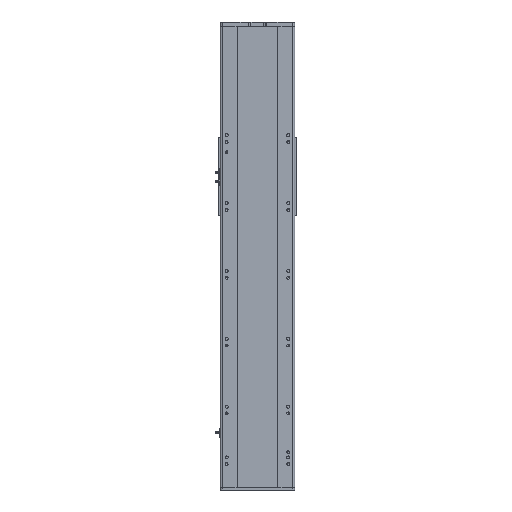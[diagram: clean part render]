
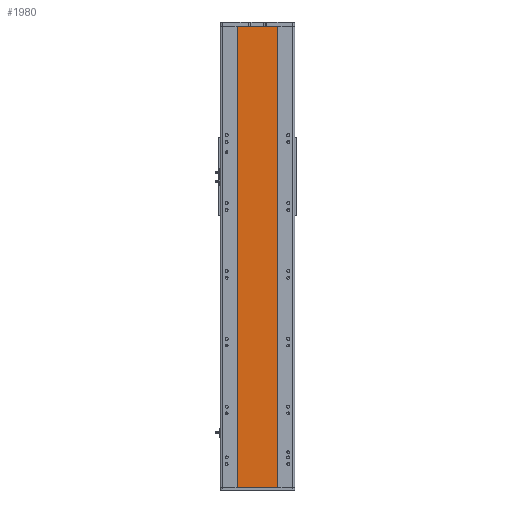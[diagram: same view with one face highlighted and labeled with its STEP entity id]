
A CAD part, front view. The second image highlights one B-rep face of the part: STEP entity #1980.
In plain terms, the highlighted planar face has unit normal (0, -1, 0).
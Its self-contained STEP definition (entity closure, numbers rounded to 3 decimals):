
#523 = EDGE_CURVE ( 'NONE', #20252, #26656, #4677, .T. ) ;
#553 = LINE ( 'NONE', #3970, #3300 ) ;
#897 = DIRECTION ( 'NONE',  ( 1., 0., 0. ) ) ;
#1447 = CARTESIAN_POINT ( 'NONE',  ( -59., 1., 680.5 ) ) ;
#1980 = ADVANCED_FACE ( 'NONE', ( #30156 ), #18916, .F. ) ;
#2332 = CARTESIAN_POINT ( 'NONE',  ( 59., 1., 680.5 ) ) ;
#2375 = ORIENTED_EDGE ( 'NONE', *, *, #523, .F. ) ;
#3265 = ORIENTED_EDGE ( 'NONE', *, *, #24276, .T. ) ;
#3300 = VECTOR ( 'NONE', #897, 1000. ) ;
#3380 = VERTEX_POINT ( 'NONE', #4880 ) ;
#3473 = EDGE_CURVE ( 'NONE', #26656, #3380, #5385, .T. ) ;
#3554 = VECTOR ( 'NONE', #37126, 1000. ) ;
#3970 = CARTESIAN_POINT ( 'NONE',  ( -59., 1., -680.5 ) ) ;
#4056 = CARTESIAN_POINT ( 'NONE',  ( -59., 1., 680.5 ) ) ;
#4677 = LINE ( 'NONE', #4056, #14238 ) ;
#4880 = CARTESIAN_POINT ( 'NONE',  ( 59., 1., -680.5 ) ) ;
#5385 = LINE ( 'NONE', #2332, #3554 ) ;
#11071 = EDGE_CURVE ( 'NONE', #14777, #3380, #553, .T. ) ;
#12692 = DIRECTION ( 'NONE',  ( 1., 0., 0. ) ) ;
#12904 = DIRECTION ( 'NONE',  ( 0., 1., 0. ) ) ;
#12996 = EDGE_LOOP ( 'NONE', ( #25651, #34064, #2375, #3265 ) ) ;
#14238 = VECTOR ( 'NONE', #12692, 1000. ) ;
#14777 = VERTEX_POINT ( 'NONE', #20702 ) ;
#16565 = LINE ( 'NONE', #21590, #22079 ) ;
#18022 = CARTESIAN_POINT ( 'NONE',  ( -59., 1., 680.5 ) ) ;
#18521 = DIRECTION ( 'NONE',  ( 0., 0., -1. ) ) ;
#18916 = PLANE ( 'NONE',  #27885 ) ;
#20252 = VERTEX_POINT ( 'NONE', #18022 ) ;
#20702 = CARTESIAN_POINT ( 'NONE',  ( -59., 1., -680.5 ) ) ;
#21590 = CARTESIAN_POINT ( 'NONE',  ( -59., 1., 680.5 ) ) ;
#22079 = VECTOR ( 'NONE', #18521, 1000. ) ;
#24276 = EDGE_CURVE ( 'NONE', #20252, #14777, #16565, .T. ) ;
#25651 = ORIENTED_EDGE ( 'NONE', *, *, #11071, .T. ) ;
#26656 = VERTEX_POINT ( 'NONE', #34225 ) ;
#27885 = AXIS2_PLACEMENT_3D ( 'NONE', #1447, #12904, #36164 ) ;
#30156 = FACE_OUTER_BOUND ( 'NONE', #12996, .T. ) ;
#34064 = ORIENTED_EDGE ( 'NONE', *, *, #3473, .F. ) ;
#34225 = CARTESIAN_POINT ( 'NONE',  ( 59., 1., 680.5 ) ) ;
#36164 = DIRECTION ( 'NONE',  ( -1., 0., 0. ) ) ;
#37126 = DIRECTION ( 'NONE',  ( 0., 0., -1. ) ) ;
